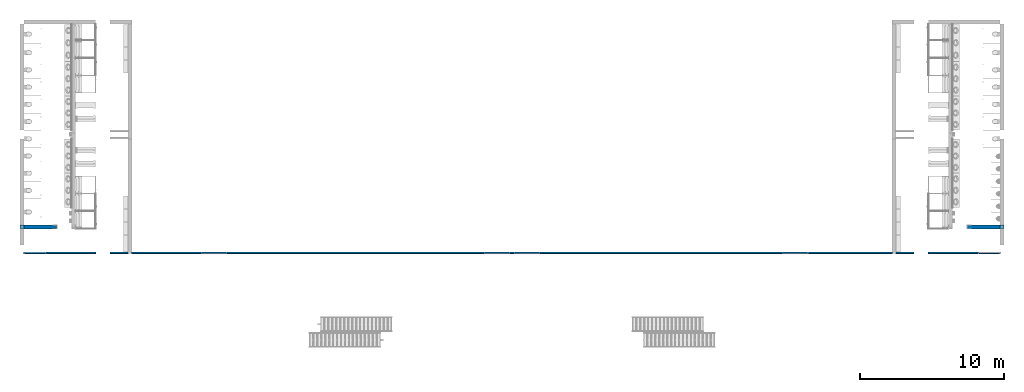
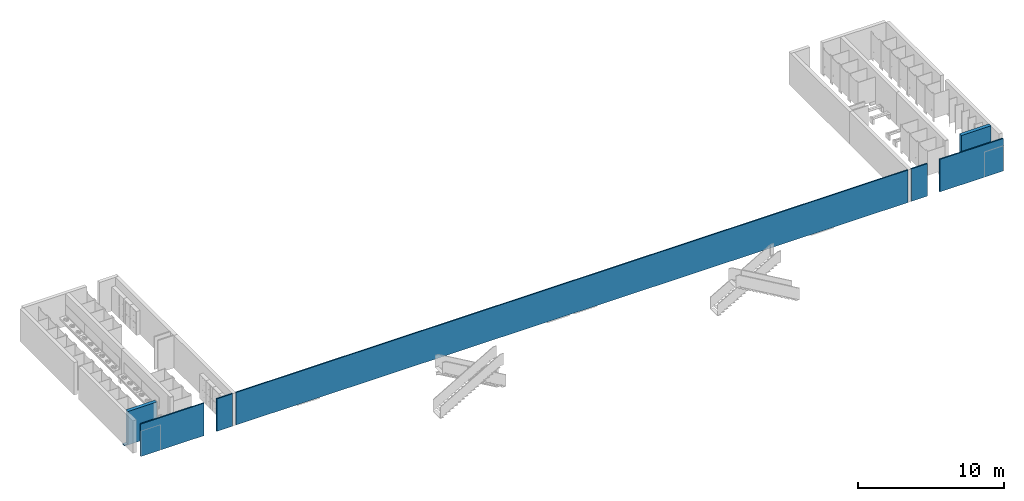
# One storey, part 2 of 22: 3 walls.
"""IFC2X3 building model written with IfcOpenShell, lengths in millimetres."""

from ifc_helpers import new_model, entity, si_unit, converted_unit, derived_unit, direction, frame, origin, place, context, subcontext, project, spatial, face_set, faceted_brep, surface_model, material, type_object, element, save


model = new_model("IFC2X3")

# Units and contexts
model_context = context("Model", 3, precision=0.01, world=origin(), true_north=direction((6.12303176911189e-17, 1.0)))
body_context = subcontext(model_context, "Body", "Model", "MODEL_VIEW")
ifc_project = project(units=[si_unit("LENGTHUNIT", "METRE", prefix="MILLI"), si_unit("AREAUNIT", "SQUARE_METRE"), si_unit("VOLUMEUNIT", "CUBIC_METRE"), converted_unit("PLANEANGLEUNIT", "DEGREE", entity("IfcRatioMeasure", 0.0174532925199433), si_unit("PLANEANGLEUNIT", "RADIAN"), dimensions=[0, 0, 0, 0, 0, 0, 0]), si_unit("MASSUNIT", "GRAM", prefix="KILO"), derived_unit("MASSDENSITYUNIT", [(si_unit("MASSUNIT", "GRAM", prefix="KILO"), 1), (si_unit("LENGTHUNIT", "METRE"), -3)]), si_unit("TIMEUNIT", "SECOND"), si_unit("FREQUENCYUNIT", "HERTZ"), si_unit("THERMODYNAMICTEMPERATUREUNIT", "DEGREE_CELSIUS"), derived_unit("THERMALTRANSMITTANCEUNIT", [(si_unit("MASSUNIT", "GRAM", prefix="KILO"), 1), (si_unit("THERMODYNAMICTEMPERATUREUNIT", "KELVIN"), -1), (si_unit("TIMEUNIT", "SECOND"), -3)]), derived_unit("VOLUMETRICFLOWRATEUNIT", [(si_unit("LENGTHUNIT", "METRE"), 3), (si_unit("TIMEUNIT", "SECOND"), -1)]), si_unit("ELECTRICCURRENTUNIT", "AMPERE"), si_unit("ELECTRICVOLTAGEUNIT", "VOLT"), si_unit("POWERUNIT", "WATT"), si_unit("FORCEUNIT", "NEWTON", prefix="KILO"), si_unit("ILLUMINANCEUNIT", "LUX"), si_unit("LUMINOUSFLUXUNIT", "LUMEN"), si_unit("LUMINOUSINTENSITYUNIT", "CANDELA"), derived_unit("USERDEFINED", [(si_unit("MASSUNIT", "GRAM", prefix="KILO"), -1), (si_unit("LENGTHUNIT", "METRE"), -2), (si_unit("TIMEUNIT", "SECOND"), 3), (si_unit("LUMINOUSFLUXUNIT", "LUMEN"), 1)]), derived_unit("LINEARVELOCITYUNIT", [(si_unit("LENGTHUNIT", "METRE"), 1), (si_unit("TIMEUNIT", "SECOND"), -1)]), si_unit("PRESSUREUNIT", "PASCAL"), derived_unit("USERDEFINED", [(si_unit("LENGTHUNIT", "METRE"), -2), (si_unit("MASSUNIT", "GRAM", prefix="KILO"), 1), (si_unit("TIMEUNIT", "SECOND"), -2)])], contexts=[model_context])

# Site, building, storey
site_placement = place(None, origin())
site = spatial("IfcSite", under=ifc_project, at=site_placement, Name="Default", CompositionType="ELEMENT")
building_placement = place(site_placement, origin())
building = spatial("IfcBuilding", under=site, at=building_placement, CompositionType="ELEMENT")
storey_placement = place(building_placement, frame((0.0, 0.0, -3000.0)))
storey = spatial("IfcBuildingStorey", under=building, at=storey_placement, Name="-2. Story", CompositionType="ELEMENT", Elevation=-3000.0)

# Walls
ifc_material = material(Name="Stucco - White Fine")
wall_type_1 = type_object("IfcWallType", Name="SW - 008", PredefinedType="NOTDEFINED", material=ifc_material)
wall_1_placement = place(storey_placement, frame((47008.8569215, 74503.1569014, 90.0)))
element("IfcWall", 1, at=wall_1_placement, inside=storey, type_object=wall_type_1, material=ifc_material, Name="SW - 008:SW - 008", ObjectType="SW - 008:SW - 008", context=body_context, shape_type="SurfaceModel", body=[
    surface_model("IfcFaceBasedSurfaceModel", [(5000.0, 88.0, 2710.0), (5000.0, 100.0, 2710.0), (0.0, 100.0, 2710.0), (0.0, 88.0, 2710.0), (5000.0, 100.0, 0.0), (5000.0, 100.0, 2710.0), (5000.0, 88.0, 2710.0), (5000.0, 88.0, 0.0), (5000.0, 100.0, 2710.0), (5000.0, 100.0, 0.0), (0.0, 100.0, 0.0), (0.0, 100.0, 2710.0), (0.0, 88.0, 2710.0), (0.0, 100.0, 2710.0), (0.0, 100.0, 0.0), (0.0, 88.0, 0.0), (5000.0, 88.0, 0.0), (5000.0, 88.0, 2710.0), (0.0, 88.0, 2710.0), (0.0, 88.0, 0.0), (5000.0, 100.0, 0.0), (5000.0, 88.0, 0.0), (0.0, 88.0, 0.0), (0.0, 100.0, 0.0), (60497.8314382, 88.0, 2710.0), (60497.8314382, 88.0, 0.0), (60497.8314382, 100.0, 0.0), (60497.8314382, 100.0, 2710.0), (7502.16856178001, 88.0, 2710.0), (7502.16856178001, 88.0, 0.0), (60497.8314382, 88.0, 0.0), (60497.8314382, 88.0, 2710.0), (7502.16856178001, 88.0, 0.0), (7502.16856178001, 100.0, 0.0), (60497.8314382, 100.0, 0.0), (60497.8314382, 88.0, 0.0), (60497.8314382, 100.0, 2710.0), (60497.8314382, 100.0, 0.0), (7502.16856178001, 100.0, 0.0), (7502.16856178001, 100.0, 2710.0), (7502.16856178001, 100.0, 2710.0), (7502.16856178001, 88.0, 2710.0), (60497.8314382, 88.0, 2710.0), (60497.8314382, 100.0, 2710.0), (7502.16856178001, 100.0, 2710.0), (7502.16856178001, 100.0, 0.0), (7502.16856178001, 88.0, 0.0), (7502.16856178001, 88.0, 2710.0), (62000.0, 88.0, 2710.0), (62000.0, 100.0, 2710.0), (60747.8314382, 100.0, 2710.0), (60747.8314382, 88.0, 2710.0), (62000.0, 100.0, 0.0), (62000.0, 100.0, 2710.0), (62000.0, 88.0, 2710.0), (62000.0, 88.0, 0.0), (62000.0, 100.0, 2710.0), (62000.0, 100.0, 0.0), (60747.8314382, 100.0, 0.0), (60747.8314382, 100.0, 2710.0), (60747.8314382, 100.0, 2710.0), (60747.8314382, 100.0, 0.0), (60747.8314382, 88.0, 0.0), (60747.8314382, 88.0, 2710.0), (62000.0, 88.0, 0.0), (62000.0, 88.0, 2710.0), (60747.8314382, 88.0, 2710.0), (60747.8314382, 88.0, 0.0), (62000.0, 100.0, 0.0), (62000.0, 88.0, 0.0), (60747.8314382, 88.0, 0.0), (60747.8314382, 100.0, 0.0), (68000.0, 88.0, 2710.0), (68000.0, 100.0, 2710.0), (63000.0, 100.0, 2710.0), (63000.0, 88.0, 2710.0), (68000.0, 100.0, 0.0), (68000.0, 100.0, 2710.0), (68000.0, 88.0, 2710.0), (68000.0, 88.0, 0.0), (68000.0, 100.0, 2710.0), (68000.0, 100.0, 0.0), (63000.0, 100.0, 0.0), (63000.0, 100.0, 2710.0), (63000.0, 88.0, 2710.0), (63000.0, 100.0, 2710.0), (63000.0, 100.0, 0.0), (63000.0, 88.0, 0.0), (68000.0, 88.0, 0.0), (68000.0, 88.0, 2710.0), (63000.0, 88.0, 2710.0), (63000.0, 88.0, 0.0), (68000.0, 100.0, 0.0), (68000.0, 88.0, 0.0), (63000.0, 88.0, 0.0), (63000.0, 100.0, 0.0), (6000.0, 100.0, 0.0), (6000.0, 100.0, 2710.0), (7252.16856178, 100.0, 2710.0), (7252.16856178, 100.0, 0.0), (6000.0, 88.0, 2710.0), (6000.0, 100.0, 2710.0), (6000.0, 100.0, 0.0), (6000.0, 88.0, 0.0), (6000.0, 100.0, 2710.0), (6000.0, 88.0, 2710.0), (7252.16856178, 88.0, 2710.0), (7252.16856178, 100.0, 2710.0), (7252.16856178, 88.0, 2710.0), (7252.16856178, 88.0, 0.0), (7252.16856178, 100.0, 0.0), (7252.16856178, 100.0, 2710.0), (6000.0, 88.0, 0.0), (6000.0, 100.0, 0.0), (7252.16856178, 100.0, 0.0), (7252.16856178, 88.0, 0.0), (6000.0, 88.0, 2710.0), (6000.0, 88.0, 0.0), (7252.16856178, 88.0, 0.0), (7252.16856178, 88.0, 2710.0), (5000.0, 0.0, 2710.0), (5000.0, 12.0, 2710.0), (0.0, 12.0, 2710.0), (0.0, 0.0, 2710.0), (5000.0, 12.0, 0.0), (5000.0, 12.0, 2710.0), (5000.0, 0.0, 2710.0), (5000.0, 0.0, 0.0), (5000.0, 12.0, 2710.0), (5000.0, 12.0, 0.0), (0.0, 12.0, 0.0), (0.0, 12.0, 2710.0), (0.0, 0.0, 2710.0), (0.0, 12.0, 2710.0), (0.0, 12.0, 0.0), (0.0, 0.0, 0.0), (5000.0, 0.0, 0.0), (5000.0, 0.0, 2710.0), (0.0, 0.0, 2710.0), (5000.0, 12.0, 0.0), (5000.0, 0.0, 0.0), (0.0, 12.0, 0.0), (60497.8314382, 0.0, 2710.0), (60497.8314382, 0.0, 0.0), (60497.8314382, 12.0, 0.0), (60497.8314382, 12.0, 2710.0), (7502.16856178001, 0.0, 2710.0), (7502.16856178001, 0.0, 0.0), (60497.8314382, 0.0, 0.0), (60497.8314382, 0.0, 2710.0), (7502.16856178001, 0.0, 0.0), (7502.16856178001, 12.0, 0.0), (60497.8314382, 12.0, 0.0), (60497.8314382, 0.0, 0.0), (60497.8314382, 12.0, 2710.0), (60497.8314382, 12.0, 0.0), (7502.16856178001, 12.0, 0.0), (7502.16856178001, 12.0, 2710.0), (7502.16856178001, 12.0, 2710.0), (7502.16856178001, 0.0, 2710.0), (60497.8314382, 0.0, 2710.0), (60497.8314382, 12.0, 2710.0), (7502.16856178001, 12.0, 2710.0), (7502.16856178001, 12.0, 0.0), (7502.16856178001, 0.0, 0.0), (7502.16856178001, 0.0, 2710.0), (62000.0, 0.0, 2710.0), (62000.0, 12.0, 2710.0), (60747.8314382, 12.0, 2710.0), (60747.8314382, 0.0, 2710.0), (62000.0, 12.0, 0.0), (62000.0, 12.0, 2710.0), (62000.0, 0.0, 2710.0), (62000.0, 0.0, 0.0), (62000.0, 12.0, 2710.0), (62000.0, 12.0, 0.0), (60747.8314382, 12.0, 0.0), (60747.8314382, 12.0, 2710.0), (60747.8314382, 12.0, 2710.0), (60747.8314382, 12.0, 0.0), (60747.8314382, 0.0, 0.0), (60747.8314382, 0.0, 2710.0), (62000.0, 0.0, 0.0), (62000.0, 0.0, 2710.0), (60747.8314382, 0.0, 2710.0), (60747.8314382, 0.0, 0.0), (62000.0, 12.0, 0.0), (62000.0, 0.0, 0.0), (60747.8314382, 0.0, 0.0), (60747.8314382, 12.0, 0.0), (68000.0, 0.0, 2710.0), (68000.0, 12.0, 2710.0), (63000.0, 12.0, 2710.0), (63000.0, 0.0, 2710.0), (68000.0, 12.0, 0.0), (68000.0, 12.0, 2710.0), (68000.0, 0.0, 2710.0), (68000.0, 0.0, 0.0), (68000.0, 12.0, 2710.0), (68000.0, 12.0, 0.0), (63000.0, 12.0, 0.0), (63000.0, 12.0, 2710.0), (63000.0, 0.0, 2710.0), (63000.0, 12.0, 2710.0), (63000.0, 12.0, 0.0), (63000.0, 0.0, 0.0), (68000.0, 0.0, 0.0), (68000.0, 0.0, 2710.0), (63000.0, 0.0, 2710.0), (63000.0, 0.0, 0.0), (68000.0, 12.0, 0.0), (68000.0, 0.0, 0.0), (63000.0, 0.0, 0.0), (63000.0, 12.0, 0.0), (6000.0, 12.0, 0.0), (6000.0, 12.0, 2710.0), (7252.16856178, 12.0, 2710.0), (7252.16856178, 12.0, 0.0), (6000.0, 0.0, 2710.0), (6000.0, 12.0, 2710.0), (6000.0, 12.0, 0.0), (6000.0, 0.0, 0.0), (6000.0, 12.0, 2710.0), (6000.0, 0.0, 2710.0), (7252.16856178, 0.0, 2710.0), (7252.16856178, 12.0, 2710.0), (7252.16856178, 0.0, 2710.0), (7252.16856178, 0.0, 0.0), (7252.16856178, 12.0, 0.0), (7252.16856178, 12.0, 2710.0), (6000.0, 0.0, 0.0), (6000.0, 12.0, 0.0), (7252.16856178, 12.0, 0.0), (7252.16856178, 0.0, 0.0), (6000.0, 0.0, 2710.0), (6000.0, 0.0, 0.0), (7252.16856178, 0.0, 0.0), (7252.16856178, 0.0, 2710.0)], [face_set([[[0, 1, 2, 3]]]), face_set([[[4, 5, 6, 7]]]), face_set([[[8, 9, 10, 11]]]), face_set([[[12, 13, 14, 15]]]), face_set([[[16, 17, 18, 19]]]), face_set([[[20, 21, 22, 23]]]), face_set([[[24, 25, 26, 27]]]), face_set([[[28, 29, 30, 31]]]), face_set([[[32, 33, 34, 35]]]), face_set([[[36, 37, 38, 39]]]), face_set([[[40, 41, 42, 43]]]), face_set([[[44, 45, 46, 47]]]), face_set([[[48, 49, 50, 51]]]), face_set([[[52, 53, 54, 55]]]), face_set([[[56, 57, 58, 59]]]), face_set([[[60, 61, 62, 63]]]), face_set([[[64, 65, 66, 67]]]), face_set([[[68, 69, 70, 71]]]), face_set([[[72, 73, 74, 75]]]), face_set([[[76, 77, 78, 79]]]), face_set([[[80, 81, 82, 83]]]), face_set([[[84, 85, 86, 87]]]), face_set([[[88, 89, 90, 91]]]), face_set([[[92, 93, 94, 95]]]), face_set([[[96, 97, 98, 99]]]), face_set([[[100, 101, 102, 103]]]), face_set([[[104, 105, 106, 107]]]), face_set([[[108, 109, 110, 111]]]), face_set([[[112, 113, 114, 115]]]), face_set([[[116, 117, 118, 119]]]), face_set([[[120, 121, 122, 123]]]), face_set([[[124, 125, 126, 127]]]), face_set([[[128, 129, 130, 131]]]), face_set([[[132, 133, 134, 135]]]), face_set([[[136, 137, 138, 135]]]), face_set([[[139, 140, 135, 141]]]), face_set([[[142, 143, 144, 145]]]), face_set([[[146, 147, 148, 149]]]), face_set([[[150, 151, 152, 153]]]), face_set([[[154, 155, 156, 157]]]), face_set([[[158, 159, 160, 161]]]), face_set([[[162, 163, 164, 165]]]), face_set([[[166, 167, 168, 169]]]), face_set([[[170, 171, 172, 173]]]), face_set([[[174, 175, 176, 177]]]), face_set([[[178, 179, 180, 181]]]), face_set([[[182, 183, 184, 185]]]), face_set([[[186, 187, 188, 189]]]), face_set([[[190, 191, 192, 193]]]), face_set([[[194, 195, 196, 197]]]), face_set([[[198, 199, 200, 201]]]), face_set([[[202, 203, 204, 205]]]), face_set([[[206, 207, 208, 209]]]), face_set([[[210, 211, 212, 213]]]), face_set([[[214, 215, 216, 217]]]), face_set([[[218, 219, 220, 221]]]), face_set([[[222, 223, 224, 225]]]), face_set([[[226, 227, 228, 229]]]), face_set([[[230, 231, 232, 233]]]), face_set([[[234, 235, 236, 237]]])]),
    surface_model("IfcFaceBasedSurfaceModel", [(5000.0, 12.0, 2710.0), (5000.0, 88.0, 2710.0), (0.0, 88.0, 2710.0), (0.0, 12.0, 2710.0), (5000.0, 88.0, 0.0), (5000.0, 88.0, 2710.0), (5000.0, 12.0, 2710.0), (5000.0, 12.0, 0.0), (5000.0, 88.0, 2710.0), (5000.0, 88.0, 0.0), (0.0, 88.0, 0.0), (0.0, 88.0, 2710.0), (0.0, 12.0, 2710.0), (0.0, 88.0, 2710.0), (0.0, 88.0, 0.0), (0.0, 12.0, 0.0), (5000.0, 12.0, 0.0), (5000.0, 12.0, 2710.0), (0.0, 12.0, 2710.0), (0.0, 12.0, 0.0), (5000.0, 88.0, 0.0), (5000.0, 12.0, 0.0), (0.0, 12.0, 0.0), (0.0, 88.0, 0.0), (60497.8314382, 12.0, 2710.0), (60497.8314382, 12.0, 0.0), (60497.8314382, 88.0, 0.0), (60497.8314382, 88.0, 2710.0), (7502.16856178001, 12.0, 2710.0), (7502.16856178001, 12.0, 0.0), (60497.8314382, 12.0, 0.0), (60497.8314382, 12.0, 2710.0), (7502.16856178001, 12.0, 0.0), (7502.16856178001, 88.0, 0.0), (60497.8314382, 88.0, 0.0), (60497.8314382, 12.0, 0.0), (60497.8314382, 88.0, 2710.0), (60497.8314382, 88.0, 0.0), (7502.16856178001, 88.0, 0.0), (7502.16856178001, 88.0, 2710.0), (7502.16856178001, 88.0, 2710.0), (7502.16856178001, 12.0, 2710.0), (60497.8314382, 12.0, 2710.0), (60497.8314382, 88.0, 2710.0), (7502.16856178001, 88.0, 2710.0), (7502.16856178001, 88.0, 0.0), (7502.16856178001, 12.0, 0.0), (7502.16856178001, 12.0, 2710.0), (62000.0, 12.0, 2710.0), (62000.0, 88.0, 2710.0), (60747.8314382, 88.0, 2710.0), (60747.8314382, 12.0, 2710.0), (62000.0, 88.0, 0.0), (62000.0, 88.0, 2710.0), (62000.0, 12.0, 2710.0), (62000.0, 12.0, 0.0), (62000.0, 88.0, 2710.0), (62000.0, 88.0, 0.0), (60747.8314382, 88.0, 0.0), (60747.8314382, 88.0, 2710.0), (60747.8314382, 88.0, 2710.0), (60747.8314382, 88.0, 0.0), (60747.8314382, 12.0, 0.0), (60747.8314382, 12.0, 2710.0), (62000.0, 12.0, 0.0), (62000.0, 12.0, 2710.0), (60747.8314382, 12.0, 2710.0), (60747.8314382, 12.0, 0.0), (62000.0, 88.0, 0.0), (62000.0, 12.0, 0.0), (60747.8314382, 12.0, 0.0), (60747.8314382, 88.0, 0.0), (68000.0, 12.0, 2710.0), (68000.0, 88.0, 2710.0), (63000.0, 88.0, 2710.0), (63000.0, 12.0, 2710.0), (68000.0, 88.0, 0.0), (68000.0, 88.0, 2710.0), (68000.0, 12.0, 2710.0), (68000.0, 12.0, 0.0), (68000.0, 88.0, 2710.0), (68000.0, 88.0, 0.0), (63000.0, 88.0, 0.0), (63000.0, 88.0, 2710.0), (63000.0, 12.0, 2710.0), (63000.0, 88.0, 2710.0), (63000.0, 88.0, 0.0), (63000.0, 12.0, 0.0), (68000.0, 12.0, 0.0), (68000.0, 12.0, 2710.0), (63000.0, 12.0, 2710.0), (63000.0, 12.0, 0.0), (68000.0, 88.0, 0.0), (68000.0, 12.0, 0.0), (63000.0, 12.0, 0.0), (63000.0, 88.0, 0.0), (6000.0, 88.0, 0.0), (6000.0, 88.0, 2710.0), (7252.16856178, 88.0, 2710.0), (7252.16856178, 88.0, 0.0), (6000.0, 12.0, 2710.0), (6000.0, 88.0, 2710.0), (6000.0, 88.0, 0.0), (6000.0, 12.0, 0.0), (6000.0, 88.0, 2710.0), (6000.0, 12.0, 2710.0), (7252.16856178, 12.0, 2710.0), (7252.16856178, 88.0, 2710.0), (7252.16856178, 12.0, 2710.0), (7252.16856178, 12.0, 0.0), (7252.16856178, 88.0, 0.0), (7252.16856178, 88.0, 2710.0), (6000.0, 12.0, 0.0), (6000.0, 88.0, 0.0), (7252.16856178, 88.0, 0.0), (7252.16856178, 12.0, 0.0), (6000.0, 12.0, 2710.0), (6000.0, 12.0, 0.0), (7252.16856178, 12.0, 0.0), (7252.16856178, 12.0, 2710.0)], [face_set([[[0, 1, 2, 3]]]), face_set([[[4, 5, 6, 7]]]), face_set([[[8, 9, 10, 11]]]), face_set([[[12, 13, 14, 15]]]), face_set([[[16, 17, 18, 19]]]), face_set([[[20, 21, 22, 23]]]), face_set([[[24, 25, 26, 27]]]), face_set([[[28, 29, 30, 31]]]), face_set([[[32, 33, 34, 35]]]), face_set([[[36, 37, 38, 39]]]), face_set([[[40, 41, 42, 43]]]), face_set([[[44, 45, 46, 47]]]), face_set([[[48, 49, 50, 51]]]), face_set([[[52, 53, 54, 55]]]), face_set([[[56, 57, 58, 59]]]), face_set([[[60, 61, 62, 63]]]), face_set([[[64, 65, 66, 67]]]), face_set([[[68, 69, 70, 71]]]), face_set([[[72, 73, 74, 75]]]), face_set([[[76, 77, 78, 79]]]), face_set([[[80, 81, 82, 83]]]), face_set([[[84, 85, 86, 87]]]), face_set([[[88, 89, 90, 91]]]), face_set([[[92, 93, 94, 95]]]), face_set([[[96, 97, 98, 99]]]), face_set([[[100, 101, 102, 103]]]), face_set([[[104, 105, 106, 107]]]), face_set([[[108, 109, 110, 111]]]), face_set([[[112, 113, 114, 115]]]), face_set([[[116, 117, 118, 119]]])]),
])
wall_type_2 = type_object("IfcWallType", Name="SW - 014", PredefinedType="NOTDEFINED", material=ifc_material)
wall_2_placement = place(storey_placement, frame((46733.8569215, 76228.9483369, 0.0)))
element("IfcWall", 2, at=wall_2_placement, inside=storey, type_object=wall_type_2, material=ifc_material, Name="SW - 014:SW - 014", ObjectType="SW - 014:SW - 014", context=body_context, shape_type="Brep", body=[
    faceted_brep([(275.0, 275.0, 2800.0), (275.0, 262.500000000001, 2800.0), (262.500000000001, 262.500000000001, 2800.0), (262.500000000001, 12.4999999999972, 2800.0), (275.0, 12.4999999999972, 2800.0), (275.0, 0.0, 2800.0), (2297.62634082, 0.0, 2800.0), (2297.62634082, 12.4999999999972, 2800.0), (2547.62634082, 12.4999999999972, 2800.0), (2547.62634082, 262.500000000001, 2800.0), (2297.62634082, 262.500000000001, 2800.0), (2297.62634082, 275.0, 2800.0), (275.0, 262.500000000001, 90.0), (275.0, 275.0, 90.0), (2297.62634082, 275.0, 90.0), (2297.62634082, 262.500000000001, 90.0), (0.0, 262.500000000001, 0.0), (0.0, 262.500000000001, 90.0), (262.500000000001, 262.500000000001, 90.0), (2547.62634082, 262.500000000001, 0.0), (262.500000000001, 12.4999999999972, 90.0), (0.0, 12.4999999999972, 90.0), (0.0, 12.4999999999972, 0.0), (2547.62634082, 12.4999999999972, 0.0), (2297.62634082, 12.4999999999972, 90.0), (275.0, 12.4999999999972, 90.0), (275.0, 0.0, 90.0), (2297.62634082, 0.0, 90.0)], [[[0, 1, 2, 3, 4, 5, 6, 7, 8, 9, 10, 11]], [[12, 13, 14, 15]], [[13, 0, 11, 14]], [[1, 0, 13, 12]], [[16, 17, 18, 2, 1, 12, 15, 10, 9, 19]], [[3, 20, 21, 22, 23, 8, 7, 24, 25, 4]], [[23, 22, 16, 19]], [[17, 16, 22, 21]], [[18, 17, 21, 20]], [[2, 18, 20, 3]], [[26, 25, 24, 27]], [[5, 4, 25, 26]], [[5, 26, 27, 6]], [[10, 15, 14, 11]], [[19, 9, 8, 23]], [[24, 7, 6, 27]]]),
])
wall_type_3 = type_object("IfcWallType", Name="SW - 014", PredefinedType="NOTDEFINED", material=ifc_material)
wall_3_placement = place(storey_placement, frame((112686.23058118, 76228.9483369, 0.0)))
element("IfcWall", 3, at=wall_3_placement, inside=storey, type_object=wall_type_3, material=ifc_material, Name="SW - 014 1585887:SW - 014 1585887", ObjectType="SW - 014 1585887:SW - 014 1585887", context=body_context, shape_type="Brep", body=[
    faceted_brep([(2322.62634082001, 0.0, 90.0), (2322.62634082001, 12.4999999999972, 90.0), (2322.62634082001, 12.4999999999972, 2800.0), (2322.62634082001, 0.0, 2800.0), (0.0, 12.4999999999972, 90.0), (0.0, 0.0, 90.0), (0.0, 12.4999999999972, 2800.0), (0.0, 0.0, 2800.0)], [[[0, 1, 2, 3]], [[4, 1, 0, 5]], [[1, 4, 6, 2]], [[7, 3, 2, 6]], [[5, 0, 3, 7]], [[4, 5, 7, 6]]]),
    faceted_brep([(0.0, 262.500000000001, 2800.0), (2335.12634082, 262.500000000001, 2800.0), (2335.12634082, 262.500000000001, 90.0), (2597.62634082, 262.500000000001, 90.0), (2597.62634082, 262.500000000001, 0.0), (0.0, 262.500000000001, 0.0), (0.0, 12.4999999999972, 2800.0), (2335.12634082, 12.4999999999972, 2800.0), (2335.12634082, 12.4999999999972, 90.0), (2597.62634082, 12.4999999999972, 90.0), (2597.62634082, 12.4999999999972, 0.0), (0.0, 12.4999999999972, 0.0)], [[[0, 1, 2, 3, 4, 5]], [[6, 7, 1, 0]], [[8, 2, 1, 7]], [[9, 3, 2, 8]], [[4, 3, 9, 10]], [[11, 5, 4, 10]], [[6, 0, 5, 11]], [[10, 11, 6, 7, 8, 9]]]),
    faceted_brep([(2322.62634082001, 262.500000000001, 90.0), (2322.62634082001, 275.0, 90.0), (2322.62634082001, 275.0, 2800.0), (2322.62634082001, 262.500000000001, 2800.0), (0.0, 275.0, 90.0), (0.0, 262.500000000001, 90.0), (0.0, 275.0, 2800.0), (0.0, 262.500000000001, 2800.0)], [[[0, 1, 2, 3]], [[4, 1, 0, 5]], [[1, 4, 6, 2]], [[7, 3, 2, 6]], [[5, 0, 3, 7]], [[4, 5, 7, 6]]]),
])

save(model, "model.ifc")
